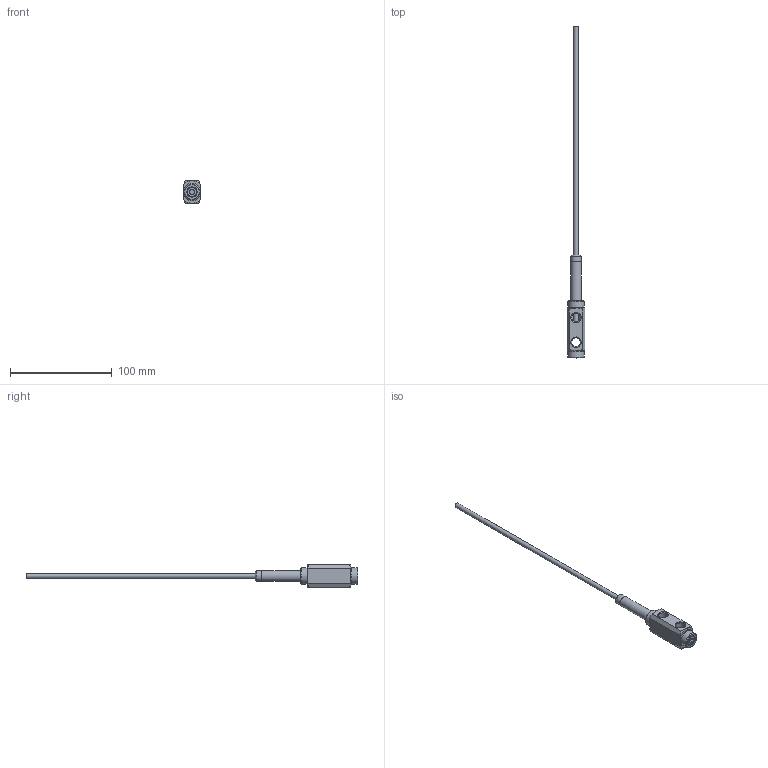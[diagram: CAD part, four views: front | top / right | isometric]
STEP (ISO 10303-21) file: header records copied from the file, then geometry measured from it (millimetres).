
FILE_DESCRIPTION(/* description */ (''),/* implementation_level */ '2;1');
FILE_NAME(/* name */ 'C:/Users/drich/Desktop/181N-RL v1.step',/* time_stamp */ '2020-01-15T19:43:18-06:00',/* author */ (''),/* organization */ (''),/* preprocessor_version */ 'ST-DEVELOPER v18',/* originating_system */ 'Autodesk Translation Framework v8.12.0.6',/* authorisation */ '');
FILE_SCHEMA (('AUTOMOTIVE_DESIGN { 1 0 10303 214 3 1 1 }','TECHNICAL_DATA_PACKAGING'));
Length unit declared in the file: inch
Products named in the file (5): 181N-RL; 181H-RL; SSPN18-2; PT16-187-12; BF-18
Assembly tree (4 placements, depth 2):
  181N-RL
    181H-RL
    SSPN18-2
    PT16-187-12
    BF-18
Bounding box: 17.42 x 325.8 x 22.23 mm (x, y, z)
Volume: 17851 mm3; surface area: 17866 mm2
Topology: 4 solids, 4 shells, 94 faces, 250 edges, 171 vertices
Faces by surface type: plane 42, cone 24, cylinder 22, torus 6
Full cylindrical faces by diameter (mm): 3.962 x1, 4.242 x1, 4.724 x1, 5.969 x1, 6.697 x1, 6.833 x1, 7.616 x1, 8.707 x5, 9.621 x1, 10.262 x2, 10.312 x1, 15.875 x2
Entity records: 3176 total; most frequent: CARTESIAN_POINT 621, DIRECTION 545, ORIENTED_EDGE 500, EDGE_CURVE 250, AXIS2_PLACEMENT_3D 230, VERTEX_POINT 171, CIRCLE 119, EDGE_LOOP 113
